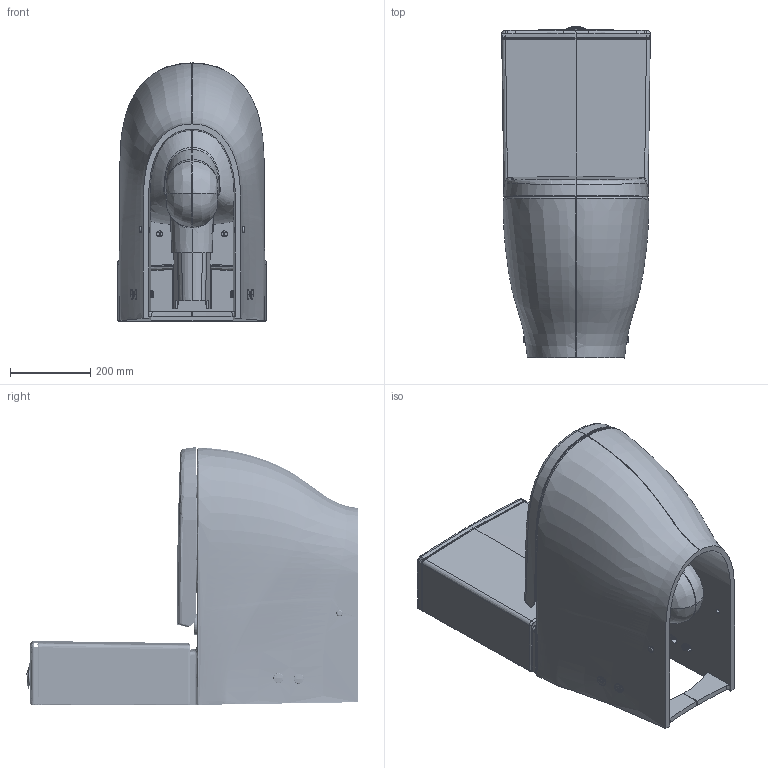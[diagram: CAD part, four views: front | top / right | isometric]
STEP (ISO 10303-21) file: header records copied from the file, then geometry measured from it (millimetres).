
FILE_DESCRIPTION (( 'STEP AP203' ), '1' );
FILE_NAME ('MA361-00CB00E-0000+MA410-00CB00E-0000+KC1703.02.0000E.STEP', '2022-08-18T07:16:56', ( '' ), ( '' ), 'SwSTEP 2.0', 'SolidWorks 2021', '' );
FILE_SCHEMA (( 'CONFIG_CONTROL_DESIGN' ));
Products named in the file (1): MA361-00CB00E-0000+MA410-00CB00E-0000+KC1703.02.0000E
Bounding box: 369.72 x 825.36 x 641.75 mm (x, y, z)
Volume: 35393175.5 mm3; surface area: 3335954.6 mm2
Topology: 40 solids, 40 shells, 2368 faces, 5915 edges, 3682 vertices
Faces by surface type: bspline 899, cylinder 784, plane 445, cone 117, torus 83, sphere 40
Entity records: 527462 total; most frequent: CARTESIAN_POINT 479742, ORIENTED_EDGE 11662, DIRECTION 7249, EDGE_CURVE 5831, VERTEX_POINT 3670, AXIS2_PLACEMENT_3D 2859, B_SPLINE_CURVE_WITH_KNOTS 2627, EDGE_LOOP 2549
